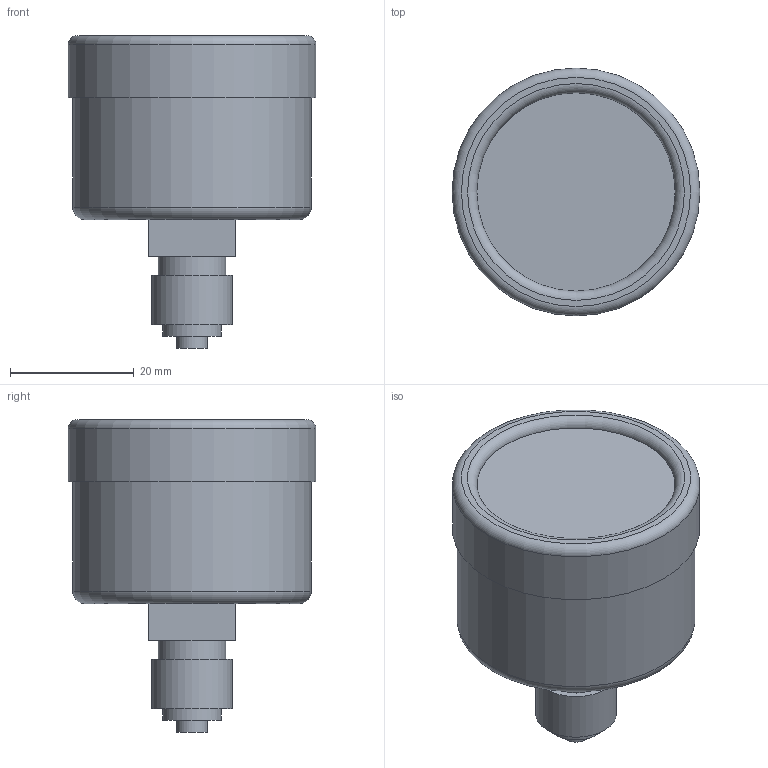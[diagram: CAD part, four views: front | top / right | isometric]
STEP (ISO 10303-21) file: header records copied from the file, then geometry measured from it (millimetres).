
FILE_DESCRIPTION((''),'2;1');
FILE_NAME('U:\AirCom-Produktdokumentation\Druckmessgeraete\MS4002\Zeichnungen\CAD-Aircom\3D\B-MS4002.stp','2011-07-08T09:55:22',('Frank Schroers'),(''),'Autodesk Inventor 2008','Autodesk Inventor 2008','');
FILE_SCHEMA(('AUTOMOTIVE_DESIGN { 1 0 10303 214 1 1 1 1 }'));
Length unit declared in the file: millimetre
Products named in the file (1): B-MS4002
Bounding box: 40 x 40 x 50.5 mm (x, y, z)
Volume: 36701 mm3; surface area: 7055.8 mm2
Topology: 1 solids, 1 shells, 25 faces, 42 edges, 27 vertices
Faces by surface type: plane 14, cylinder 7, torus 3, cone 1
Full cylindrical faces by diameter (mm): 2.5 x1, 5 x1, 9.5 x1, 10.9 x1, 13 x1, 38.5 x1, 40 x1
Entity records: 562 total; most frequent: DIRECTION 102, CARTESIAN_POINT 84, ORIENTED_EDGE 62, AXIS2_PLACEMENT_3D 45, EDGE_LOOP 44, EDGE_CURVE 31, VERTEX_POINT 27, FACE_OUTER_BOUND 25
